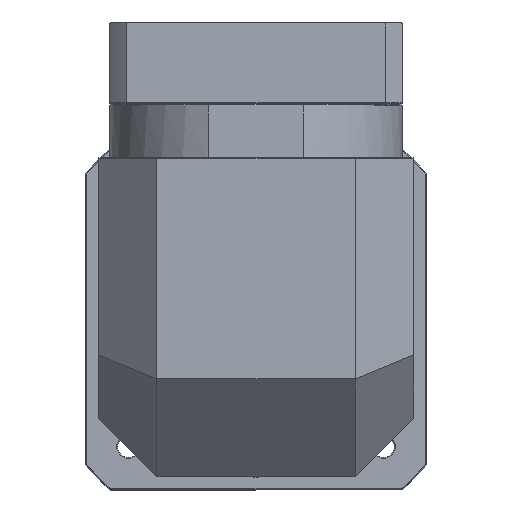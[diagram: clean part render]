
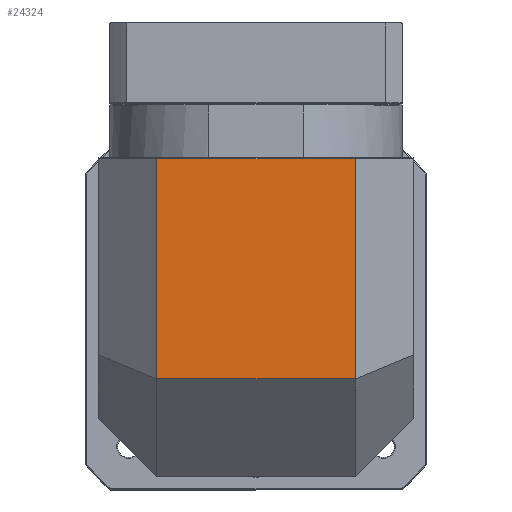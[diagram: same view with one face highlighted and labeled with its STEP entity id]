
A CAD part, top view. The second image highlights one B-rep face of the part: STEP entity #24324.
In plain terms, the highlighted planar face has unit normal (0, 0, 1).
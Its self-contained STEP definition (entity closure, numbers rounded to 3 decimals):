
#5402 = CARTESIAN_POINT ( 'NONE',  ( -127.298, 89.753, 425.95 ) ) ;
#15221 = DIRECTION ( 'NONE',  ( 1., 0., 0. ) ) ;
#24324 = ADVANCED_FACE ( 'NONE', ( #133817 ), #100118, .F. ) ;
#25672 = DIRECTION ( 'NONE',  ( 0., 1., 0. ) ) ;
#25980 = ORIENTED_EDGE ( 'NONE', *, *, #27807, .T. ) ;
#27807 = EDGE_CURVE ( 'NONE', #101957, #128044, #58447, .T. ) ;
#30848 = VERTEX_POINT ( 'NONE', #105466 ) ;
#34258 = AXIS2_PLACEMENT_3D ( 'NONE', #5402, #89364, #15221 ) ;
#37195 = ORIENTED_EDGE ( 'NONE', *, *, #75598, .T. ) ;
#43432 = DIRECTION ( 'NONE',  ( 0., 1., 0. ) ) ;
#46540 = CARTESIAN_POINT ( 'NONE',  ( 4.702, 89.253, 425.95 ) ) ;
#51057 = DIRECTION ( 'NONE',  ( 1., 0., 0. ) ) ;
#58125 = CARTESIAN_POINT ( 'NONE',  ( -97.298, 8.003, 425.95 ) ) ;
#58447 = LINE ( 'NONE', #84642, #84920 ) ;
#64584 = CARTESIAN_POINT ( 'NONE',  ( 4.702, -23.747, 425.95 ) ) ;
#69540 = VERTEX_POINT ( 'NONE', #118825 ) ;
#72439 = EDGE_LOOP ( 'NONE', ( #25980, #97320, #125737, #37195 ) ) ;
#75598 = EDGE_CURVE ( 'NONE', #69540, #101957, #112094, .T. ) ;
#84642 = CARTESIAN_POINT ( 'NONE',  ( 4.702, 89.753, 425.95 ) ) ;
#84816 = CARTESIAN_POINT ( 'NONE',  ( -127.298, 89.253, 425.95 ) ) ;
#84920 = VECTOR ( 'NONE', #43432, 1000. ) ;
#89364 = DIRECTION ( 'NONE',  ( 0., 0., -1. ) ) ;
#90998 = VECTOR ( 'NONE', #129442, 1000. ) ;
#92792 = LINE ( 'NONE', #84816, #90998 ) ;
#97192 = VECTOR ( 'NONE', #51057, 1000. ) ;
#97320 = ORIENTED_EDGE ( 'NONE', *, *, #102457, .T. ) ;
#100118 = PLANE ( 'NONE',  #34258 ) ;
#101957 = VERTEX_POINT ( 'NONE', #64584 ) ;
#102457 = EDGE_CURVE ( 'NONE', #128044, #30848, #92792, .T. ) ;
#103602 = VECTOR ( 'NONE', #25672, 1000. ) ;
#104009 = CARTESIAN_POINT ( 'NONE',  ( -127.298, -23.747, 425.95 ) ) ;
#105466 = CARTESIAN_POINT ( 'NONE',  ( -97.298, 89.253, 425.95 ) ) ;
#112094 = LINE ( 'NONE', #104009, #97192 ) ;
#118825 = CARTESIAN_POINT ( 'NONE',  ( -97.298, -23.747, 425.95 ) ) ;
#125737 = ORIENTED_EDGE ( 'NONE', *, *, #129920, .F. ) ;
#128044 = VERTEX_POINT ( 'NONE', #46540 ) ;
#129442 = DIRECTION ( 'NONE',  ( -1., 0., 0. ) ) ;
#129920 = EDGE_CURVE ( 'NONE', #69540, #30848, #131827, .T. ) ;
#131827 = LINE ( 'NONE', #58125, #103602 ) ;
#133817 = FACE_OUTER_BOUND ( 'NONE', #72439, .T. ) ;
